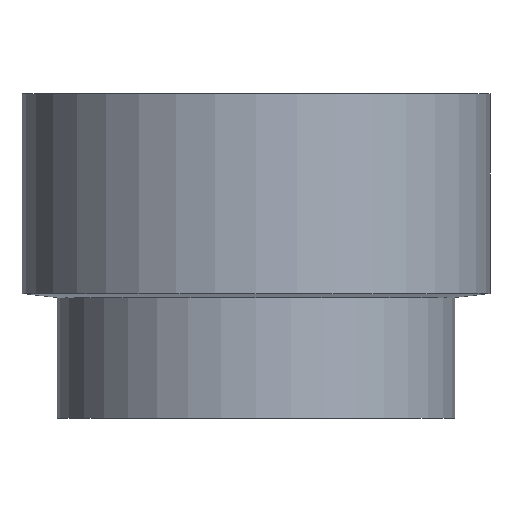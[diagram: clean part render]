
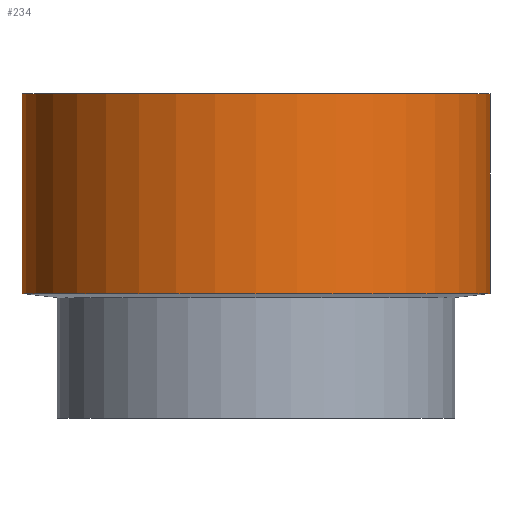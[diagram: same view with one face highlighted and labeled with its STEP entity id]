
A CAD part, front view. The second image highlights one B-rep face of the part: STEP entity #234.
In plain terms, the highlighted cylindrical face has radius 49.4 mm (diameter 98.8 mm), a partial arc.
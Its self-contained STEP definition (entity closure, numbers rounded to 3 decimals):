
#10 = CIRCLE ( 'NONE', #74, 49.4 ) ;
#12 = CARTESIAN_POINT ( 'NONE',  ( 0., 0., 68.55 ) ) ;
#14 = CARTESIAN_POINT ( 'NONE',  ( 49.4, 0., 26.35 ) ) ;
#17 = AXIS2_PLACEMENT_3D ( 'NONE', #12, #340, #300 ) ;
#29 = VECTOR ( 'NONE', #157, 1000. ) ;
#36 = CARTESIAN_POINT ( 'NONE',  ( 0., 0., 68.55 ) ) ;
#42 = EDGE_CURVE ( 'NONE', #71, #183, #244, .T. ) ;
#52 = FACE_OUTER_BOUND ( 'NONE', #104, .T. ) ;
#55 = EDGE_CURVE ( 'NONE', #64, #71, #10, .T. ) ;
#64 = VERTEX_POINT ( 'NONE', #114 ) ;
#71 = VERTEX_POINT ( 'NONE', #324 ) ;
#72 = DIRECTION ( 'NONE',  ( 0., 0., -1. ) ) ;
#74 = AXIS2_PLACEMENT_3D ( 'NONE', #36, #163, #365 ) ;
#89 = CYLINDRICAL_SURFACE ( 'NONE', #17, 49.4 ) ;
#103 = EDGE_CURVE ( 'NONE', #64, #457, #330, .T. ) ;
#104 = EDGE_LOOP ( 'NONE', ( #385, #485, #225, #279 ) ) ;
#114 = CARTESIAN_POINT ( 'NONE',  ( -49.4, 0., 68.55 ) ) ;
#135 = AXIS2_PLACEMENT_3D ( 'NONE', #156, #161, #441 ) ;
#156 = CARTESIAN_POINT ( 'NONE',  ( 0., 0., 26.35 ) ) ;
#157 = DIRECTION ( 'NONE',  ( 0., 0., -1. ) ) ;
#161 = DIRECTION ( 'NONE',  ( 0., 0., -1. ) ) ;
#163 = DIRECTION ( 'NONE',  ( 0., 0., 1. ) ) ;
#183 = VERTEX_POINT ( 'NONE', #14 ) ;
#225 = ORIENTED_EDGE ( 'NONE', *, *, #103, .T. ) ;
#234 = ADVANCED_FACE ( 'NONE', ( #52 ), #89, .T. ) ;
#238 = CARTESIAN_POINT ( 'NONE',  ( -49.4, 0., 68.55 ) ) ;
#244 = LINE ( 'NONE', #444, #440 ) ;
#279 = ORIENTED_EDGE ( 'NONE', *, *, #443, .F. ) ;
#300 = DIRECTION ( 'NONE',  ( -1., 0., 0. ) ) ;
#320 = CIRCLE ( 'NONE', #135, 49.4 ) ;
#324 = CARTESIAN_POINT ( 'NONE',  ( 49.4, 0., 68.55 ) ) ;
#330 = LINE ( 'NONE', #238, #29 ) ;
#340 = DIRECTION ( 'NONE',  ( 0., 0., -1. ) ) ;
#365 = DIRECTION ( 'NONE',  ( 1., 0., 0. ) ) ;
#385 = ORIENTED_EDGE ( 'NONE', *, *, #42, .F. ) ;
#440 = VECTOR ( 'NONE', #72, 1000. ) ;
#441 = DIRECTION ( 'NONE',  ( -1., 0., 0. ) ) ;
#443 = EDGE_CURVE ( 'NONE', #183, #457, #320, .T. ) ;
#444 = CARTESIAN_POINT ( 'NONE',  ( 49.4, 0., 68.55 ) ) ;
#457 = VERTEX_POINT ( 'NONE', #488 ) ;
#485 = ORIENTED_EDGE ( 'NONE', *, *, #55, .F. ) ;
#488 = CARTESIAN_POINT ( 'NONE',  ( -49.4, 0., 26.35 ) ) ;
